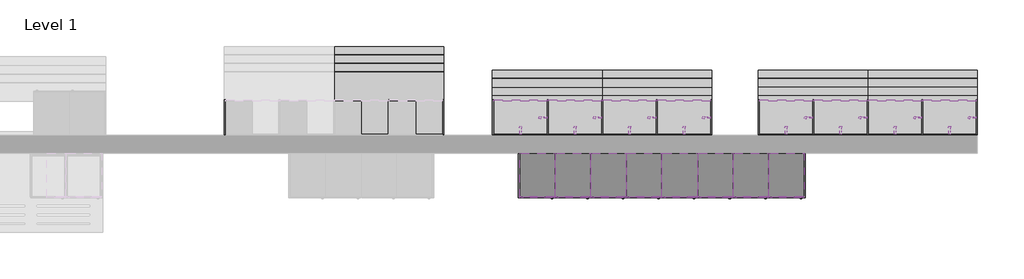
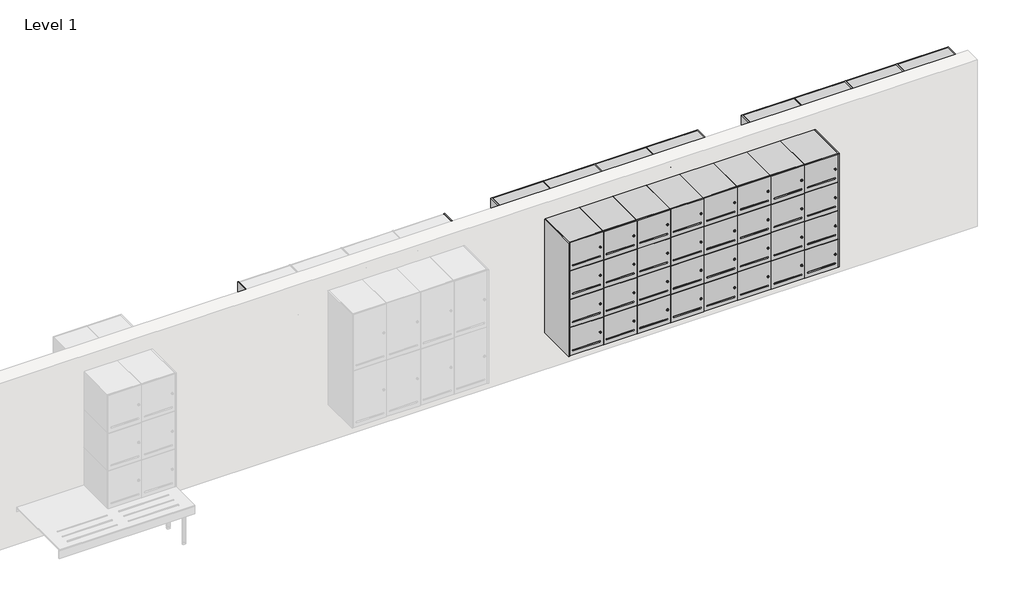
# One storey, part 4 of 4: 121 furniture elements.
"""IFC4 building model written with IfcOpenShell, lengths in millimetres."""

from ifc_helpers import new_model, si_unit, origin, place, context, project, spatial, transform, mapped, element, save
from components import furniture_05545089, furniture_1adf02c7, furniture_41643bc5, standard_40445af7, standard_a614ba5f, standard_31cafe8a, standard_fa82621c, standard_dfdfc683, standard_1d1dc8e2, standard_c1a46ae4, standard_bb7d0adb, standard_4fa27b75, standard_d1edd0f1, standard_5b8814d3, standard_172709b4, standard_1dc56df4, standard_ba7fbf49

model = new_model("IFC4")

# Units and contexts
model_context = context("Model", 3, world=origin())
ifc_project = project(units=[si_unit("LENGTHUNIT", "METRE", prefix="MILLI")], contexts=[model_context])

# Site, building, storey
site = spatial("IfcSite", under=ifc_project)
building = spatial("IfcBuilding", under=site)
storey = spatial("IfcBuildingStorey", under=building, Name="Level 1", Elevation=0.0)

# Furniture
placement = place(None, origin())
furniture_shape = furniture_05545089(model_context)
element("IfcFurniture", 1, ObjectType="Lockers-Bay-Duracube-Duraloc : LWM-1900h x 500d x 400w @ 470h Wall", at=placement, inside=storey, context=model_context, shape_type="MappedRepresentation", body=[
    mapped(furniture_shape, transform((6844.8424585, 2567.7422336, 0.0), x_axis=(1.0, 0.0, 0.0), y_axis=(0.0, 1.0, 0.0), z_axis=(0.0, 0.0, 1.0))),
])
furniture_2_shape = furniture_1adf02c7(model_context)
element("IfcFurniture", 2, ObjectType="Lockers-Bay-Duracube-Player : LSBSM-P-1900h x 400d x 600w with 470h Shoe Box Bench", at=placement, inside=storey, context=model_context, shape_type="MappedRepresentation", body=[
    mapped(furniture_2_shape, transform((12004.8424585, 3217.7422336, 0.0), x_axis=(-1.0, 0.0, 0.0), y_axis=(0.0, -1.0, 0.0), z_axis=(0.0, 0.0, 1.0))),
])
furniture_3_shape = furniture_41643bc5(model_context)
element("IfcFurniture", 3, ObjectType="Lockers-Bay-Duracube-Player : LBSM-P-1900h x 400d x 600w with 470h Bench", at=placement, inside=storey, context=model_context, shape_type="MappedRepresentation", body=[
    mapped(furniture_3_shape, transform((9017.8424585, 3217.7422336, 0.0), x_axis=(-1.0, 0.0, 0.0), y_axis=(0.0, -1.0, 0.0), z_axis=(0.0, 0.0, 1.0))),
])
element("IfcFurniture", 4, ObjectType="Lockers-Bay-Duracube-Player : LBSM-C-1900h x 400d x 600w with 470h Bench", at=placement, inside=storey, context=model_context, shape_type="MappedRepresentation", body=[
    mapped(furniture_3_shape, transform((6004.8424585, 3217.7422336, 0.0), x_axis=(-1.0, 0.0, 0.0), y_axis=(0.0, -1.0, 0.0), z_axis=(0.0, 0.0, 1.0))),
])
standard_shape = standard_40445af7(model_context)
element("IfcFurniture", 5, ObjectType="X_Locker-Duracube-Bay : Standard", at=placement, inside=storey, context=model_context, shape_type="MappedRepresentation", body=[
    mapped(standard_shape, transform((9813.142132, 2817.7422336, 1542.5), x_axis=(1.0, 0.0, 0.0), y_axis=(0.0, 1.0, 0.0), z_axis=(0.0, 0.0, 1.0))),
])
element("IfcFurniture", 6, ObjectType="X_Locker-Duracube-Bay : Standard", at=placement, inside=storey, context=model_context, shape_type="MappedRepresentation", body=[
    mapped(standard_shape, transform((9413.142132, 2817.7422336, 1542.5), x_axis=(1.0, 0.0, 0.0), y_axis=(0.0, 1.0, 0.0), z_axis=(0.0, 0.0, 1.0))),
])
element("IfcFurniture", 7, ObjectType="X_Locker-Duracube-Bay : Standard", at=placement, inside=storey, context=model_context, shape_type="MappedRepresentation", body=[
    mapped(standard_shape, transform((9013.142132, 2817.7422336, 1542.5), x_axis=(1.0, 0.0, 0.0), y_axis=(0.0, 1.0, 0.0), z_axis=(0.0, 0.0, 1.0))),
])
element("IfcFurniture", 8, ObjectType="X_Locker-Duracube-Bay : Standard", at=placement, inside=storey, context=model_context, shape_type="MappedRepresentation", body=[
    mapped(standard_shape, transform((8613.142132, 2817.7422336, 1542.5), x_axis=(1.0, 0.0, 0.0), y_axis=(0.0, 1.0, 0.0), z_axis=(0.0, 0.0, 1.0))),
])
element("IfcFurniture", 9, ObjectType="X_Locker-Duracube-Bay : Standard", at=placement, inside=storey, context=model_context, shape_type="MappedRepresentation", body=[
    mapped(standard_shape, transform((8213.142132, 2817.7422336, 1542.5), x_axis=(1.0, 0.0, 0.0), y_axis=(0.0, 1.0, 0.0), z_axis=(0.0, 0.0, 1.0))),
])
element("IfcFurniture", 10, ObjectType="X_Locker-Duracube-Bay : Standard", at=placement, inside=storey, context=model_context, shape_type="MappedRepresentation", body=[
    mapped(standard_shape, transform((7813.142132, 2817.7422336, 1542.5), x_axis=(1.0, 0.0, 0.0), y_axis=(0.0, 1.0, 0.0), z_axis=(0.0, 0.0, 1.0))),
])
element("IfcFurniture", 11, ObjectType="X_Locker-Duracube-Bay : Standard", at=placement, inside=storey, context=model_context, shape_type="MappedRepresentation", body=[
    mapped(standard_shape, transform((9813.142132, 2817.7422336, 1185.0), x_axis=(1.0, 0.0, 0.0), y_axis=(0.0, 1.0, 0.0), z_axis=(0.0, 0.0, 1.0))),
])
element("IfcFurniture", 12, ObjectType="X_Locker-Duracube-Bay : Standard", at=placement, inside=storey, context=model_context, shape_type="MappedRepresentation", body=[
    mapped(standard_shape, transform((9413.142132, 2817.7422336, 1185.0), x_axis=(1.0, 0.0, 0.0), y_axis=(0.0, 1.0, 0.0), z_axis=(0.0, 0.0, 1.0))),
])
element("IfcFurniture", 13, ObjectType="X_Locker-Duracube-Bay : Standard", at=placement, inside=storey, context=model_context, shape_type="MappedRepresentation", body=[
    mapped(standard_shape, transform((9013.142132, 2817.7422336, 1185.0), x_axis=(1.0, 0.0, 0.0), y_axis=(0.0, 1.0, 0.0), z_axis=(0.0, 0.0, 1.0))),
])
element("IfcFurniture", 14, ObjectType="X_Locker-Duracube-Bay : Standard", at=placement, inside=storey, context=model_context, shape_type="MappedRepresentation", body=[
    mapped(standard_shape, transform((8613.142132, 2817.7422336, 1185.0), x_axis=(1.0, 0.0, 0.0), y_axis=(0.0, 1.0, 0.0), z_axis=(0.0, 0.0, 1.0))),
])
element("IfcFurniture", 15, ObjectType="X_Locker-Duracube-Bay : Standard", at=placement, inside=storey, context=model_context, shape_type="MappedRepresentation", body=[
    mapped(standard_shape, transform((8213.142132, 2817.7422336, 1185.0), x_axis=(1.0, 0.0, 0.0), y_axis=(0.0, 1.0, 0.0), z_axis=(0.0, 0.0, 1.0))),
])
element("IfcFurniture", 16, ObjectType="X_Locker-Duracube-Bay : Standard", at=placement, inside=storey, context=model_context, shape_type="MappedRepresentation", body=[
    mapped(standard_shape, transform((7813.142132, 2817.7422336, 1185.0), x_axis=(1.0, 0.0, 0.0), y_axis=(0.0, 1.0, 0.0), z_axis=(0.0, 0.0, 1.0))),
])
element("IfcFurniture", 17, ObjectType="X_Locker-Duracube-Bay : Standard", at=placement, inside=storey, context=model_context, shape_type="MappedRepresentation", body=[
    mapped(standard_shape, transform((9813.142132, 2817.7422336, 827.5), x_axis=(1.0, 0.0, 0.0), y_axis=(0.0, 1.0, 0.0), z_axis=(0.0, 0.0, 1.0))),
])
element("IfcFurniture", 18, ObjectType="X_Locker-Duracube-Bay : Standard", at=placement, inside=storey, context=model_context, shape_type="MappedRepresentation", body=[
    mapped(standard_shape, transform((9413.142132, 2817.7422336, 827.5), x_axis=(1.0, 0.0, 0.0), y_axis=(0.0, 1.0, 0.0), z_axis=(0.0, 0.0, 1.0))),
])
element("IfcFurniture", 19, ObjectType="X_Locker-Duracube-Bay : Standard", at=placement, inside=storey, context=model_context, shape_type="MappedRepresentation", body=[
    mapped(standard_shape, transform((9013.142132, 2817.7422336, 827.5), x_axis=(1.0, 0.0, 0.0), y_axis=(0.0, 1.0, 0.0), z_axis=(0.0, 0.0, 1.0))),
])
element("IfcFurniture", 20, ObjectType="X_Locker-Duracube-Bay : Standard", at=placement, inside=storey, context=model_context, shape_type="MappedRepresentation", body=[
    mapped(standard_shape, transform((8613.142132, 2817.7422336, 827.5), x_axis=(1.0, 0.0, 0.0), y_axis=(0.0, 1.0, 0.0), z_axis=(0.0, 0.0, 1.0))),
])
element("IfcFurniture", 21, ObjectType="X_Locker-Duracube-Bay : Standard", at=placement, inside=storey, context=model_context, shape_type="MappedRepresentation", body=[
    mapped(standard_shape, transform((8213.142132, 2817.7422336, 827.5), x_axis=(1.0, 0.0, 0.0), y_axis=(0.0, 1.0, 0.0), z_axis=(0.0, 0.0, 1.0))),
])
element("IfcFurniture", 22, ObjectType="X_Locker-Duracube-Bay : Standard", at=placement, inside=storey, context=model_context, shape_type="MappedRepresentation", body=[
    mapped(standard_shape, transform((7813.142132, 2817.7422336, 827.5), x_axis=(1.0, 0.0, 0.0), y_axis=(0.0, 1.0, 0.0), z_axis=(0.0, 0.0, 1.0))),
])
element("IfcFurniture", 23, ObjectType="X_Locker-Duracube-Bay : Standard", at=placement, inside=storey, context=model_context, shape_type="MappedRepresentation", body=[
    mapped(standard_shape, transform((9813.142132, 2817.7422336, 470.0), x_axis=(1.0, 0.0, 0.0), y_axis=(0.0, 1.0, 0.0), z_axis=(0.0, 0.0, 1.0))),
])
element("IfcFurniture", 24, ObjectType="X_Locker-Duracube-Bay : Standard", at=placement, inside=storey, context=model_context, shape_type="MappedRepresentation", body=[
    mapped(standard_shape, transform((9413.142132, 2817.7422336, 470.0), x_axis=(1.0, 0.0, 0.0), y_axis=(0.0, 1.0, 0.0), z_axis=(0.0, 0.0, 1.0))),
])
element("IfcFurniture", 25, ObjectType="X_Locker-Duracube-Bay : Standard", at=placement, inside=storey, context=model_context, shape_type="MappedRepresentation", body=[
    mapped(standard_shape, transform((9013.142132, 2817.7422336, 470.0), x_axis=(1.0, 0.0, 0.0), y_axis=(0.0, 1.0, 0.0), z_axis=(0.0, 0.0, 1.0))),
])
element("IfcFurniture", 26, ObjectType="X_Locker-Duracube-Bay : Standard", at=placement, inside=storey, context=model_context, shape_type="MappedRepresentation", body=[
    mapped(standard_shape, transform((8613.142132, 2817.7422336, 470.0), x_axis=(1.0, 0.0, 0.0), y_axis=(0.0, 1.0, 0.0), z_axis=(0.0, 0.0, 1.0))),
])
element("IfcFurniture", 27, ObjectType="X_Locker-Duracube-Bay : Standard", at=placement, inside=storey, context=model_context, shape_type="MappedRepresentation", body=[
    mapped(standard_shape, transform((8213.142132, 2817.7422336, 470.0), x_axis=(1.0, 0.0, 0.0), y_axis=(0.0, 1.0, 0.0), z_axis=(0.0, 0.0, 1.0))),
])
element("IfcFurniture", 28, ObjectType="X_Locker-Duracube-Bay : Standard", at=placement, inside=storey, context=model_context, shape_type="MappedRepresentation", body=[
    mapped(standard_shape, transform((7813.142132, 2817.7422336, 470.0), x_axis=(1.0, 0.0, 0.0), y_axis=(0.0, 1.0, 0.0), z_axis=(0.0, 0.0, 1.0))),
])
element("IfcFurniture", 29, ObjectType="X_Locker-Duracube-Bay : Standard", at=placement, inside=storey, context=model_context, shape_type="MappedRepresentation", body=[
    mapped(standard_shape, transform((7413.142132, 2817.7422336, 1542.5), x_axis=(1.0, 0.0, 0.0), y_axis=(0.0, 1.0, 0.0), z_axis=(0.0, 0.0, 1.0))),
])
element("IfcFurniture", 30, ObjectType="X_Locker-Duracube-Bay : Standard", at=placement, inside=storey, context=model_context, shape_type="MappedRepresentation", body=[
    mapped(standard_shape, transform((7413.142132, 2817.7422336, 1185.0), x_axis=(1.0, 0.0, 0.0), y_axis=(0.0, 1.0, 0.0), z_axis=(0.0, 0.0, 1.0))),
])
element("IfcFurniture", 31, ObjectType="X_Locker-Duracube-Bay : Standard", at=placement, inside=storey, context=model_context, shape_type="MappedRepresentation", body=[
    mapped(standard_shape, transform((7413.142132, 2817.7422336, 827.5), x_axis=(1.0, 0.0, 0.0), y_axis=(0.0, 1.0, 0.0), z_axis=(0.0, 0.0, 1.0))),
])
element("IfcFurniture", 32, ObjectType="X_Locker-Duracube-Bay : Standard", at=placement, inside=storey, context=model_context, shape_type="MappedRepresentation", body=[
    mapped(standard_shape, transform((7413.142132, 2817.7422336, 470.0), x_axis=(1.0, 0.0, 0.0), y_axis=(0.0, 1.0, 0.0), z_axis=(0.0, 0.0, 1.0))),
])
element("IfcFurniture", 33, ObjectType="X_Locker-Duracube-Bay : Standard", at=placement, inside=storey, context=model_context, shape_type="MappedRepresentation", body=[
    mapped(standard_shape, transform((7013.142132, 2817.7422336, 1542.5), x_axis=(1.0, 0.0, 0.0), y_axis=(0.0, 1.0, 0.0), z_axis=(0.0, 0.0, 1.0))),
])
element("IfcFurniture", 34, ObjectType="X_Locker-Duracube-Bay : Standard", at=placement, inside=storey, context=model_context, shape_type="MappedRepresentation", body=[
    mapped(standard_shape, transform((7013.142132, 2817.7422336, 1185.0), x_axis=(1.0, 0.0, 0.0), y_axis=(0.0, 1.0, 0.0), z_axis=(0.0, 0.0, 1.0))),
])
element("IfcFurniture", 35, ObjectType="X_Locker-Duracube-Bay : Standard", at=placement, inside=storey, context=model_context, shape_type="MappedRepresentation", body=[
    mapped(standard_shape, transform((7013.142132, 2817.7422336, 827.5), x_axis=(1.0, 0.0, 0.0), y_axis=(0.0, 1.0, 0.0), z_axis=(0.0, 0.0, 1.0))),
])
element("IfcFurniture", 36, ObjectType="X_Locker-Duracube-Bay : Standard", at=placement, inside=storey, context=model_context, shape_type="MappedRepresentation", body=[
    mapped(standard_shape, transform((7013.142132, 2817.7422336, 470.0), x_axis=(1.0, 0.0, 0.0), y_axis=(0.0, 1.0, 0.0), z_axis=(0.0, 0.0, 1.0))),
])
standard_2_shape = standard_a614ba5f(model_context)
element("IfcFurniture", 37, ObjectType="X_Locker-Duracube-Door : Standard", at=placement, inside=storey, context=model_context, shape_type="MappedRepresentation", body=[
    mapped(standard_2_shape, transform((9813.142132, 2330.7422336, 1542.5), x_axis=(1.0, 0.0, 0.0), y_axis=(0.0, 1.0, 0.0), z_axis=(0.0, 0.0, 1.0))),
])
element("IfcFurniture", 38, ObjectType="X_Locker-Duracube-Door : Standard", at=placement, inside=storey, context=model_context, shape_type="MappedRepresentation", body=[
    mapped(standard_2_shape, transform((9413.142132, 2330.7422336, 1542.5), x_axis=(1.0, 0.0, 0.0), y_axis=(0.0, 1.0, 0.0), z_axis=(0.0, 0.0, 1.0))),
])
element("IfcFurniture", 39, ObjectType="X_Locker-Duracube-Door : Standard", at=placement, inside=storey, context=model_context, shape_type="MappedRepresentation", body=[
    mapped(standard_2_shape, transform((9013.142132, 2330.7422336, 1542.5), x_axis=(1.0, 0.0, 0.0), y_axis=(0.0, 1.0, 0.0), z_axis=(0.0, 0.0, 1.0))),
])
element("IfcFurniture", 40, ObjectType="X_Locker-Duracube-Door : Standard", at=placement, inside=storey, context=model_context, shape_type="MappedRepresentation", body=[
    mapped(standard_2_shape, transform((8613.142132, 2330.7422336, 1542.5), x_axis=(1.0, 0.0, 0.0), y_axis=(0.0, 1.0, 0.0), z_axis=(0.0, 0.0, 1.0))),
])
element("IfcFurniture", 41, ObjectType="X_Locker-Duracube-Door : Standard", at=placement, inside=storey, context=model_context, shape_type="MappedRepresentation", body=[
    mapped(standard_2_shape, transform((8213.142132, 2330.7422336, 1542.5), x_axis=(1.0, 0.0, 0.0), y_axis=(0.0, 1.0, 0.0), z_axis=(0.0, 0.0, 1.0))),
])
element("IfcFurniture", 42, ObjectType="X_Locker-Duracube-Door : Standard", at=placement, inside=storey, context=model_context, shape_type="MappedRepresentation", body=[
    mapped(standard_2_shape, transform((7813.142132, 2330.7422336, 1542.5), x_axis=(1.0, 0.0, 0.0), y_axis=(0.0, 1.0, 0.0), z_axis=(0.0, 0.0, 1.0))),
])
element("IfcFurniture", 43, ObjectType="X_Locker-Duracube-Door : Standard", at=placement, inside=storey, context=model_context, shape_type="MappedRepresentation", body=[
    mapped(standard_2_shape, transform((9813.142132, 2330.7422336, 1185.0), x_axis=(1.0, 0.0, 0.0), y_axis=(0.0, 1.0, 0.0), z_axis=(0.0, 0.0, 1.0))),
])
element("IfcFurniture", 44, ObjectType="X_Locker-Duracube-Door : Standard", at=placement, inside=storey, context=model_context, shape_type="MappedRepresentation", body=[
    mapped(standard_2_shape, transform((9413.142132, 2330.7422336, 1185.0), x_axis=(1.0, 0.0, 0.0), y_axis=(0.0, 1.0, 0.0), z_axis=(0.0, 0.0, 1.0))),
])
element("IfcFurniture", 45, ObjectType="X_Locker-Duracube-Door : Standard", at=placement, inside=storey, context=model_context, shape_type="MappedRepresentation", body=[
    mapped(standard_2_shape, transform((9013.142132, 2330.7422336, 1185.0), x_axis=(1.0, 0.0, 0.0), y_axis=(0.0, 1.0, 0.0), z_axis=(0.0, 0.0, 1.0))),
])
element("IfcFurniture", 46, ObjectType="X_Locker-Duracube-Door : Standard", at=placement, inside=storey, context=model_context, shape_type="MappedRepresentation", body=[
    mapped(standard_2_shape, transform((8613.142132, 2330.7422336, 1185.0), x_axis=(1.0, 0.0, 0.0), y_axis=(0.0, 1.0, 0.0), z_axis=(0.0, 0.0, 1.0))),
])
element("IfcFurniture", 47, ObjectType="X_Locker-Duracube-Door : Standard", at=placement, inside=storey, context=model_context, shape_type="MappedRepresentation", body=[
    mapped(standard_2_shape, transform((8213.142132, 2330.7422336, 1185.0), x_axis=(1.0, 0.0, 0.0), y_axis=(0.0, 1.0, 0.0), z_axis=(0.0, 0.0, 1.0))),
])
element("IfcFurniture", 48, ObjectType="X_Locker-Duracube-Door : Standard", at=placement, inside=storey, context=model_context, shape_type="MappedRepresentation", body=[
    mapped(standard_2_shape, transform((7813.142132, 2330.7422336, 1185.0), x_axis=(1.0, 0.0, 0.0), y_axis=(0.0, 1.0, 0.0), z_axis=(0.0, 0.0, 1.0))),
])
element("IfcFurniture", 49, ObjectType="X_Locker-Duracube-Door : Standard", at=placement, inside=storey, context=model_context, shape_type="MappedRepresentation", body=[
    mapped(standard_2_shape, transform((9813.142132, 2330.7422336, 827.5), x_axis=(1.0, 0.0, 0.0), y_axis=(0.0, 1.0, 0.0), z_axis=(0.0, 0.0, 1.0))),
])
element("IfcFurniture", 50, ObjectType="X_Locker-Duracube-Door : Standard", at=placement, inside=storey, context=model_context, shape_type="MappedRepresentation", body=[
    mapped(standard_2_shape, transform((9413.142132, 2330.7422336, 827.5), x_axis=(1.0, 0.0, 0.0), y_axis=(0.0, 1.0, 0.0), z_axis=(0.0, 0.0, 1.0))),
])
element("IfcFurniture", 51, ObjectType="X_Locker-Duracube-Door : Standard", at=placement, inside=storey, context=model_context, shape_type="MappedRepresentation", body=[
    mapped(standard_2_shape, transform((9013.142132, 2330.7422336, 827.5), x_axis=(1.0, 0.0, 0.0), y_axis=(0.0, 1.0, 0.0), z_axis=(0.0, 0.0, 1.0))),
])
element("IfcFurniture", 52, ObjectType="X_Locker-Duracube-Door : Standard", at=placement, inside=storey, context=model_context, shape_type="MappedRepresentation", body=[
    mapped(standard_2_shape, transform((8613.142132, 2330.7422336, 827.5), x_axis=(1.0, 0.0, 0.0), y_axis=(0.0, 1.0, 0.0), z_axis=(0.0, 0.0, 1.0))),
])
element("IfcFurniture", 53, ObjectType="X_Locker-Duracube-Door : Standard", at=placement, inside=storey, context=model_context, shape_type="MappedRepresentation", body=[
    mapped(standard_2_shape, transform((8213.142132, 2330.7422336, 827.5), x_axis=(1.0, 0.0, 0.0), y_axis=(0.0, 1.0, 0.0), z_axis=(0.0, 0.0, 1.0))),
])
element("IfcFurniture", 54, ObjectType="X_Locker-Duracube-Door : Standard", at=placement, inside=storey, context=model_context, shape_type="MappedRepresentation", body=[
    mapped(standard_2_shape, transform((7813.142132, 2330.7422336, 827.5), x_axis=(1.0, 0.0, 0.0), y_axis=(0.0, 1.0, 0.0), z_axis=(0.0, 0.0, 1.0))),
])
element("IfcFurniture", 55, ObjectType="X_Locker-Duracube-Door : Standard", at=placement, inside=storey, context=model_context, shape_type="MappedRepresentation", body=[
    mapped(standard_2_shape, transform((9813.142132, 2330.7422336, 470.0), x_axis=(1.0, 0.0, 0.0), y_axis=(0.0, 1.0, 0.0), z_axis=(0.0, 0.0, 1.0))),
])
element("IfcFurniture", 56, ObjectType="X_Locker-Duracube-Door : Standard", at=placement, inside=storey, context=model_context, shape_type="MappedRepresentation", body=[
    mapped(standard_2_shape, transform((9413.142132, 2330.7422336, 470.0), x_axis=(1.0, 0.0, 0.0), y_axis=(0.0, 1.0, 0.0), z_axis=(0.0, 0.0, 1.0))),
])
element("IfcFurniture", 57, ObjectType="X_Locker-Duracube-Door : Standard", at=placement, inside=storey, context=model_context, shape_type="MappedRepresentation", body=[
    mapped(standard_2_shape, transform((9013.142132, 2330.7422336, 470.0), x_axis=(1.0, 0.0, 0.0), y_axis=(0.0, 1.0, 0.0), z_axis=(0.0, 0.0, 1.0))),
])
element("IfcFurniture", 58, ObjectType="X_Locker-Duracube-Door : Standard", at=placement, inside=storey, context=model_context, shape_type="MappedRepresentation", body=[
    mapped(standard_2_shape, transform((8613.142132, 2330.7422336, 470.0), x_axis=(1.0, 0.0, 0.0), y_axis=(0.0, 1.0, 0.0), z_axis=(0.0, 0.0, 1.0))),
])
element("IfcFurniture", 59, ObjectType="X_Locker-Duracube-Door : Standard", at=placement, inside=storey, context=model_context, shape_type="MappedRepresentation", body=[
    mapped(standard_2_shape, transform((8213.142132, 2330.7422336, 470.0), x_axis=(1.0, 0.0, 0.0), y_axis=(0.0, 1.0, 0.0), z_axis=(0.0, 0.0, 1.0))),
])
element("IfcFurniture", 60, ObjectType="X_Locker-Duracube-Door : Standard", at=placement, inside=storey, context=model_context, shape_type="MappedRepresentation", body=[
    mapped(standard_2_shape, transform((7813.142132, 2330.7422336, 470.0), x_axis=(1.0, 0.0, 0.0), y_axis=(0.0, 1.0, 0.0), z_axis=(0.0, 0.0, 1.0))),
])
element("IfcFurniture", 61, ObjectType="X_Locker-Duracube-Door : Standard", at=placement, inside=storey, context=model_context, shape_type="MappedRepresentation", body=[
    mapped(standard_2_shape, transform((7413.142132, 2330.7422336, 1542.5), x_axis=(1.0, 0.0, 0.0), y_axis=(0.0, 1.0, 0.0), z_axis=(0.0, 0.0, 1.0))),
])
element("IfcFurniture", 62, ObjectType="X_Locker-Duracube-Door : Standard", at=placement, inside=storey, context=model_context, shape_type="MappedRepresentation", body=[
    mapped(standard_2_shape, transform((7413.142132, 2330.7422336, 1185.0), x_axis=(1.0, 0.0, 0.0), y_axis=(0.0, 1.0, 0.0), z_axis=(0.0, 0.0, 1.0))),
])
element("IfcFurniture", 63, ObjectType="X_Locker-Duracube-Door : Standard", at=placement, inside=storey, context=model_context, shape_type="MappedRepresentation", body=[
    mapped(standard_2_shape, transform((7413.142132, 2330.7422336, 827.5), x_axis=(1.0, 0.0, 0.0), y_axis=(0.0, 1.0, 0.0), z_axis=(0.0, 0.0, 1.0))),
])
element("IfcFurniture", 64, ObjectType="X_Locker-Duracube-Door : Standard", at=placement, inside=storey, context=model_context, shape_type="MappedRepresentation", body=[
    mapped(standard_2_shape, transform((7413.142132, 2330.7422336, 470.0), x_axis=(1.0, 0.0, 0.0), y_axis=(0.0, 1.0, 0.0), z_axis=(0.0, 0.0, 1.0))),
])
element("IfcFurniture", 65, ObjectType="X_Locker-Duracube-Door : Standard", at=placement, inside=storey, context=model_context, shape_type="MappedRepresentation", body=[
    mapped(standard_2_shape, transform((7013.142132, 2330.7422336, 1542.5), x_axis=(1.0, 0.0, 0.0), y_axis=(0.0, 1.0, 0.0), z_axis=(0.0, 0.0, 1.0))),
])
element("IfcFurniture", 66, ObjectType="X_Locker-Duracube-Door : Standard", at=placement, inside=storey, context=model_context, shape_type="MappedRepresentation", body=[
    mapped(standard_2_shape, transform((7013.142132, 2330.7422336, 1185.0), x_axis=(1.0, 0.0, 0.0), y_axis=(0.0, 1.0, 0.0), z_axis=(0.0, 0.0, 1.0))),
])
element("IfcFurniture", 67, ObjectType="X_Locker-Duracube-Door : Standard", at=placement, inside=storey, context=model_context, shape_type="MappedRepresentation", body=[
    mapped(standard_2_shape, transform((7013.142132, 2330.7422336, 827.5), x_axis=(1.0, 0.0, 0.0), y_axis=(0.0, 1.0, 0.0), z_axis=(0.0, 0.0, 1.0))),
])
element("IfcFurniture", 68, ObjectType="X_Locker-Duracube-Door : Standard", at=placement, inside=storey, context=model_context, shape_type="MappedRepresentation", body=[
    mapped(standard_2_shape, transform((7013.142132, 2330.7422336, 470.0), x_axis=(1.0, 0.0, 0.0), y_axis=(0.0, 1.0, 0.0), z_axis=(0.0, 0.0, 1.0))),
])
standard_3_shape = standard_31cafe8a(model_context)
element("IfcFurniture", 69, ObjectType="X_Partition-Robe Hook-Duracube-Door Stop : Standard", at=placement, inside=storey, context=model_context, shape_type="MappedRepresentation", body=[
    mapped(standard_3_shape, transform((9852.8424585, 3030.7422336, 1388.5), x_axis=(-1.0, 0.0, 0.0), y_axis=(0.0, 0.0, 1.0), z_axis=(0.0, 1.0, 0.0))),
])
element("IfcFurniture", 70, ObjectType="X_Partition-Robe Hook-Duracube-Door Stop : Standard", at=placement, inside=storey, context=model_context, shape_type="MappedRepresentation", body=[
    mapped(standard_3_shape, transform((10152.8424585, 3217.7422336, 1388.5), x_axis=(0.0, -1.0, 0.0), y_axis=(0.0, 0.0, 1.0), z_axis=(-1.0, 0.0, 0.0))),
])
element("IfcFurniture", 71, ObjectType="X_Partition-Robe Hook-Duracube-Door Stop : Standard", at=placement, inside=storey, context=model_context, shape_type="MappedRepresentation", body=[
    mapped(standard_3_shape, transform((10465.8424585, 3030.7422336, 1388.5), x_axis=(-1.0, 0.0, 0.0), y_axis=(0.0, 0.0, 1.0), z_axis=(0.0, 1.0, 0.0))),
])
element("IfcFurniture", 72, ObjectType="X_Partition-Robe Hook-Duracube-Door Stop : Standard", at=placement, inside=storey, context=model_context, shape_type="MappedRepresentation", body=[
    mapped(standard_3_shape, transform((10765.8424585, 3217.7422336, 1388.5), x_axis=(0.0, -1.0, 0.0), y_axis=(0.0, 0.0, 1.0), z_axis=(-1.0, 0.0, 0.0))),
])
element("IfcFurniture", 73, ObjectType="X_Partition-Robe Hook-Duracube-Door Stop : Standard", at=placement, inside=storey, context=model_context, shape_type="MappedRepresentation", body=[
    mapped(standard_3_shape, transform((11078.8424585, 3030.7422336, 1388.5), x_axis=(-1.0, 0.0, 0.0), y_axis=(0.0, 0.0, 1.0), z_axis=(0.0, 1.0, 0.0))),
])
element("IfcFurniture", 74, ObjectType="X_Partition-Robe Hook-Duracube-Door Stop : Standard", at=placement, inside=storey, context=model_context, shape_type="MappedRepresentation", body=[
    mapped(standard_3_shape, transform((11378.8424585, 3217.7422336, 1388.5), x_axis=(0.0, -1.0, 0.0), y_axis=(0.0, 0.0, 1.0), z_axis=(-1.0, 0.0, 0.0))),
])
element("IfcFurniture", 75, ObjectType="X_Partition-Robe Hook-Duracube-Door Stop : Standard", at=placement, inside=storey, context=model_context, shape_type="MappedRepresentation", body=[
    mapped(standard_3_shape, transform((11691.8424585, 3030.7422336, 1388.5), x_axis=(-1.0, 0.0, 0.0), y_axis=(0.0, 0.0, 1.0), z_axis=(0.0, 1.0, 0.0))),
])
element("IfcFurniture", 76, ObjectType="X_Partition-Robe Hook-Duracube-Door Stop : Standard", at=placement, inside=storey, context=model_context, shape_type="MappedRepresentation", body=[
    mapped(standard_3_shape, transform((11991.8424585, 3217.7422336, 1388.5), x_axis=(0.0, -1.0, 0.0), y_axis=(0.0, 0.0, 1.0), z_axis=(-1.0, 0.0, 0.0))),
])
element("IfcFurniture", 77, ObjectType="X_Partition-Robe Hook-Duracube-Door Stop : Standard", at=placement, inside=storey, context=model_context, shape_type="MappedRepresentation", body=[
    mapped(standard_3_shape, transform((7478.8424585, 3030.7422336, 1388.5), x_axis=(-1.0, 0.0, 0.0), y_axis=(0.0, 0.0, 1.0), z_axis=(0.0, 1.0, 0.0))),
])
element("IfcFurniture", 78, ObjectType="X_Partition-Robe Hook-Duracube-Door Stop : Standard", at=placement, inside=storey, context=model_context, shape_type="MappedRepresentation", body=[
    mapped(standard_3_shape, transform((7778.8424585, 3217.7422336, 1388.5), x_axis=(0.0, -1.0, 0.0), y_axis=(0.0, 0.0, 1.0), z_axis=(-1.0, 0.0, 0.0))),
])
element("IfcFurniture", 79, ObjectType="X_Partition-Robe Hook-Duracube-Door Stop : Standard", at=placement, inside=storey, context=model_context, shape_type="MappedRepresentation", body=[
    mapped(standard_3_shape, transform((8091.8424585, 3030.7422336, 1388.5), x_axis=(-1.0, 0.0, 0.0), y_axis=(0.0, 0.0, 1.0), z_axis=(0.0, 1.0, 0.0))),
])
element("IfcFurniture", 80, ObjectType="X_Partition-Robe Hook-Duracube-Door Stop : Standard", at=placement, inside=storey, context=model_context, shape_type="MappedRepresentation", body=[
    mapped(standard_3_shape, transform((8391.8424585, 3217.7422336, 1388.5), x_axis=(0.0, -1.0, 0.0), y_axis=(0.0, 0.0, 1.0), z_axis=(-1.0, 0.0, 0.0))),
])
element("IfcFurniture", 81, ObjectType="X_Partition-Robe Hook-Duracube-Door Stop : Standard", at=placement, inside=storey, context=model_context, shape_type="MappedRepresentation", body=[
    mapped(standard_3_shape, transform((8704.8424585, 3030.7422336, 1388.5), x_axis=(-1.0, 0.0, 0.0), y_axis=(0.0, 0.0, 1.0), z_axis=(0.0, 1.0, 0.0))),
])
element("IfcFurniture", 82, ObjectType="X_Partition-Robe Hook-Duracube-Door Stop : Standard", at=placement, inside=storey, context=model_context, shape_type="MappedRepresentation", body=[
    mapped(standard_3_shape, transform((9004.8424585, 3217.7422336, 1388.5), x_axis=(0.0, -1.0, 0.0), y_axis=(0.0, 0.0, 1.0), z_axis=(-1.0, 0.0, 0.0))),
])
element("IfcFurniture", 83, ObjectType="X_Partition-Robe Hook-Duracube-Door Stop : Standard", at=placement, inside=storey, context=model_context, shape_type="MappedRepresentation", body=[
    mapped(standard_3_shape, transform((6865.8424585, 3030.7422336, 1388.5), x_axis=(-1.0, 0.0, 0.0), y_axis=(0.0, 0.0, 1.0), z_axis=(0.0, 1.0, 0.0))),
])
element("IfcFurniture", 84, ObjectType="X_Partition-Robe Hook-Duracube-Door Stop : Standard", at=placement, inside=storey, context=model_context, shape_type="MappedRepresentation", body=[
    mapped(standard_3_shape, transform((7165.8424585, 3217.7422336, 1388.5), x_axis=(0.0, -1.0, 0.0), y_axis=(0.0, 0.0, 1.0), z_axis=(-1.0, 0.0, 0.0))),
])
standard_4_shape = standard_fa82621c(model_context)
element("IfcFurniture", 85, ObjectType="X_Locker-Duracube-Panel : Standard", at=placement, inside=storey, context=model_context, shape_type="MappedRepresentation", body=[
    mapped(standard_4_shape, transform((10165.8424585, 3262.44256, 470.0), x_axis=(0.0, -1.0, 0.0), y_axis=(1.0, 0.0, 0.0), z_axis=(0.0, 0.0, 1.0))),
])
element("IfcFurniture", 86, ObjectType="X_Locker-Duracube-Panel : Standard", at=placement, inside=storey, context=model_context, shape_type="MappedRepresentation", body=[
    mapped(standard_4_shape, transform((10778.8424585, 3262.44256, 470.0), x_axis=(0.0, -1.0, 0.0), y_axis=(1.0, 0.0, 0.0), z_axis=(0.0, 0.0, 1.0))),
])
element("IfcFurniture", 87, ObjectType="X_Locker-Duracube-Panel : Standard", at=placement, inside=storey, context=model_context, shape_type="MappedRepresentation", body=[
    mapped(standard_4_shape, transform((11391.8424585, 3262.44256, 470.0), x_axis=(0.0, -1.0, 0.0), y_axis=(1.0, 0.0, 0.0), z_axis=(0.0, 0.0, 1.0))),
])
element("IfcFurniture", 88, ObjectType="X_Locker-Duracube-Panel : Standard", at=placement, inside=storey, context=model_context, shape_type="MappedRepresentation", body=[
    mapped(standard_4_shape, transform((7178.8424585, 3262.44256, 470.0), x_axis=(0.0, -1.0, 0.0), y_axis=(1.0, 0.0, 0.0), z_axis=(0.0, 0.0, 1.0))),
])
element("IfcFurniture", 89, ObjectType="X_Locker-Duracube-Panel : Standard", at=placement, inside=storey, context=model_context, shape_type="MappedRepresentation", body=[
    mapped(standard_4_shape, transform((7791.8424585, 3262.44256, 470.0), x_axis=(0.0, -1.0, 0.0), y_axis=(1.0, 0.0, 0.0), z_axis=(0.0, 0.0, 1.0))),
])
element("IfcFurniture", 90, ObjectType="X_Locker-Duracube-Panel : Standard", at=placement, inside=storey, context=model_context, shape_type="MappedRepresentation", body=[
    mapped(standard_4_shape, transform((8404.8424585, 3262.44256, 470.0), x_axis=(0.0, -1.0, 0.0), y_axis=(1.0, 0.0, 0.0), z_axis=(0.0, 0.0, 1.0))),
])
standard_5_shape = standard_dfdfc683(model_context)
element("IfcFurniture", 91, ObjectType="X_Bench-Foot-Duracube-Player Wall Assembly : Standard", at=placement, inside=storey, context=model_context, shape_type="MappedRepresentation", body=[
    mapped(standard_5_shape, transform((8949.0427849, 3377.7422336, 0.0), x_axis=(-1.0, 0.0, 0.0), y_axis=(0.0, -1.0, 0.0), z_axis=(0.0, 0.0, 1.0))),
])
element("IfcFurniture", 92, ObjectType="X_Bench-Foot-Duracube-Player Wall Assembly : Standard", at=placement, inside=storey, context=model_context, shape_type="MappedRepresentation", body=[
    mapped(standard_5_shape, transform((7716.5427849, 3377.7422336, 0.0), x_axis=(-1.0, 0.0, 0.0), y_axis=(0.0, -1.0, 0.0), z_axis=(0.0, 0.0, 1.0))),
])
standard_6_shape = standard_1d1dc8e2(model_context)
element("IfcFurniture", 93, ObjectType="X_Bench-Foot-Duracube-Player Wall Assembly : Standard", at=placement, inside=storey, context=model_context, shape_type="MappedRepresentation", body=[
    mapped(standard_6_shape, transform((7854.142132, 3377.7422336, 0.0), x_axis=(1.0, 0.0, 0.0), y_axis=(0.0, 1.0, 0.0), z_axis=(0.0, 0.0, 1.0))),
])
element("IfcFurniture", 94, ObjectType="X_Bench-Foot-Duracube-Player Wall Assembly : Standard", at=placement, inside=storey, context=model_context, shape_type="MappedRepresentation", body=[
    mapped(standard_6_shape, transform((6621.642132, 3377.7422336, 0.0), x_axis=(1.0, 0.0, 0.0), y_axis=(0.0, 1.0, 0.0), z_axis=(0.0, 0.0, 1.0))),
])
standard_7_shape = standard_c1a46ae4(model_context)
element("IfcFurniture", 95, ObjectType="X_Bench-Foot-Duracube-Player Wall Assembly : Standard", at=placement, inside=storey, context=model_context, shape_type="MappedRepresentation", body=[
    mapped(standard_7_shape, transform((5936.0427849, 3232.7422336, 0.0), x_axis=(-1.0, 0.0, 0.0), y_axis=(0.0, -1.0, 0.0), z_axis=(0.0, 0.0, 1.0))),
])
standard_8_shape = standard_bb7d0adb(model_context)
element("IfcFurniture", 96, ObjectType="X_Vanity-Angle-Duracube-Bench Support : Standard", at=placement, inside=storey, context=model_context, shape_type="MappedRepresentation", body=[
    mapped(standard_8_shape, transform((11433.2927849, 3017.7422336, 417.0), x_axis=(-1.0, 0.0, 0.0), y_axis=(0.0, -1.0, 0.0), z_axis=(0.0, 0.0, 1.0))),
])
element("IfcFurniture", 97, ObjectType="X_Vanity-Angle-Duracube-Bench Support : Standard", at=placement, inside=storey, context=model_context, shape_type="MappedRepresentation", body=[
    mapped(standard_8_shape, transform((10200.7927849, 3017.7422336, 417.0), x_axis=(-1.0, 0.0, 0.0), y_axis=(0.0, -1.0, 0.0), z_axis=(0.0, 0.0, 1.0))),
])
element("IfcFurniture", 98, ObjectType="X_Vanity-Angle-Duracube-Bench Support : Standard", at=placement, inside=storey, context=model_context, shape_type="MappedRepresentation", body=[
    mapped(standard_8_shape, transform((8446.2927849, 3017.7422336, 417.0), x_axis=(-1.0, 0.0, 0.0), y_axis=(0.0, -1.0, 0.0), z_axis=(0.0, 0.0, 1.0))),
])
element("IfcFurniture", 99, ObjectType="X_Vanity-Angle-Duracube-Bench Support : Standard", at=placement, inside=storey, context=model_context, shape_type="MappedRepresentation", body=[
    mapped(standard_8_shape, transform((7213.7927849, 3017.7422336, 417.0), x_axis=(-1.0, 0.0, 0.0), y_axis=(0.0, -1.0, 0.0), z_axis=(0.0, 0.0, 1.0))),
])
element("IfcFurniture", 100, ObjectType="X_Vanity-Angle-Duracube-Bench Support : Standard", at=placement, inside=storey, context=model_context, shape_type="MappedRepresentation", body=[
    mapped(standard_8_shape, transform((5433.2927849, 3017.7422336, 417.0), x_axis=(-1.0, 0.0, 0.0), y_axis=(0.0, -1.0, 0.0), z_axis=(0.0, 0.0, 1.0))),
])
standard_9_shape = standard_4fa27b75(model_context)
element("IfcFurniture", 101, ObjectType="X_Locker-Duracube-Player Bay : Standard", at=placement, inside=storey, context=model_context, shape_type="MappedRepresentation", body=[
    mapped(standard_9_shape, transform((9897.5427849, 3017.7422336, 470.0), x_axis=(-1.0, 0.0, 0.0), y_axis=(0.0, -1.0, 0.0), z_axis=(0.0, 0.0, 1.0))),
])
element("IfcFurniture", 102, ObjectType="X_Locker-Duracube-Player Bay : Standard", at=placement, inside=storey, context=model_context, shape_type="MappedRepresentation", body=[
    mapped(standard_9_shape, transform((10510.5427849, 3017.7422336, 470.0), x_axis=(-1.0, 0.0, 0.0), y_axis=(0.0, -1.0, 0.0), z_axis=(0.0, 0.0, 1.0))),
])
element("IfcFurniture", 103, ObjectType="X_Locker-Duracube-Player Bay : Standard", at=placement, inside=storey, context=model_context, shape_type="MappedRepresentation", body=[
    mapped(standard_9_shape, transform((11123.5427849, 3017.7422336, 470.0), x_axis=(-1.0, 0.0, 0.0), y_axis=(0.0, -1.0, 0.0), z_axis=(0.0, 0.0, 1.0))),
])
element("IfcFurniture", 104, ObjectType="X_Locker-Duracube-Player Bay : Standard", at=placement, inside=storey, context=model_context, shape_type="MappedRepresentation", body=[
    mapped(standard_9_shape, transform((11736.5427849, 3017.7422336, 470.0), x_axis=(-1.0, 0.0, 0.0), y_axis=(0.0, -1.0, 0.0), z_axis=(0.0, 0.0, 1.0))),
])
element("IfcFurniture", 105, ObjectType="X_Locker-Duracube-Player Bay : Standard", at=placement, inside=storey, context=model_context, shape_type="MappedRepresentation", body=[
    mapped(standard_9_shape, transform((7523.5427849, 3017.7422336, 470.0), x_axis=(-1.0, 0.0, 0.0), y_axis=(0.0, -1.0, 0.0), z_axis=(0.0, 0.0, 1.0))),
])
element("IfcFurniture", 106, ObjectType="X_Locker-Duracube-Player Bay : Standard", at=placement, inside=storey, context=model_context, shape_type="MappedRepresentation", body=[
    mapped(standard_9_shape, transform((8136.5427849, 3017.7422336, 470.0), x_axis=(-1.0, 0.0, 0.0), y_axis=(0.0, -1.0, 0.0), z_axis=(0.0, 0.0, 1.0))),
])
element("IfcFurniture", 107, ObjectType="X_Locker-Duracube-Player Bay : Standard", at=placement, inside=storey, context=model_context, shape_type="MappedRepresentation", body=[
    mapped(standard_9_shape, transform((8749.5427849, 3017.7422336, 470.0), x_axis=(-1.0, 0.0, 0.0), y_axis=(0.0, -1.0, 0.0), z_axis=(0.0, 0.0, 1.0))),
])
element("IfcFurniture", 108, ObjectType="X_Locker-Duracube-Player Bay : Standard", at=placement, inside=storey, context=model_context, shape_type="MappedRepresentation", body=[
    mapped(standard_9_shape, transform((6910.5427849, 3017.7422336, 470.0), x_axis=(-1.0, 0.0, 0.0), y_axis=(0.0, -1.0, 0.0), z_axis=(0.0, 0.0, 1.0))),
])
standard_10_shape = standard_d1edd0f1(model_context)
element("IfcFurniture", 109, ObjectType="X_Locker-Duracube-Player Door : Standard", at=placement, inside=storey, context=model_context, shape_type="MappedRepresentation", body=[
    mapped(standard_10_shape, transform((9897.5427849, 3404.7422336, 1500.0), x_axis=(-1.0, 0.0, 0.0), y_axis=(0.0, -1.0, 0.0), z_axis=(0.0, 0.0, 1.0))),
])
element("IfcFurniture", 110, ObjectType="X_Locker-Duracube-Player Door : Standard", at=placement, inside=storey, context=model_context, shape_type="MappedRepresentation", body=[
    mapped(standard_10_shape, transform((10510.5427849, 3404.7422336, 1500.0), x_axis=(-1.0, 0.0, 0.0), y_axis=(0.0, -1.0, 0.0), z_axis=(0.0, 0.0, 1.0))),
])
element("IfcFurniture", 111, ObjectType="X_Locker-Duracube-Player Door : Standard", at=placement, inside=storey, context=model_context, shape_type="MappedRepresentation", body=[
    mapped(standard_10_shape, transform((11123.5427849, 3404.7422336, 1500.0), x_axis=(-1.0, 0.0, 0.0), y_axis=(0.0, -1.0, 0.0), z_axis=(0.0, 0.0, 1.0))),
])
element("IfcFurniture", 112, ObjectType="X_Locker-Duracube-Player Door : Standard", at=placement, inside=storey, context=model_context, shape_type="MappedRepresentation", body=[
    mapped(standard_10_shape, transform((11736.5427849, 3404.7422336, 1500.0), x_axis=(-1.0, 0.0, 0.0), y_axis=(0.0, -1.0, 0.0), z_axis=(0.0, 0.0, 1.0))),
])
element("IfcFurniture", 113, ObjectType="X_Locker-Duracube-Player Door : Standard", at=placement, inside=storey, context=model_context, shape_type="MappedRepresentation", body=[
    mapped(standard_10_shape, transform((7523.5427849, 3404.7422336, 1500.0), x_axis=(-1.0, 0.0, 0.0), y_axis=(0.0, -1.0, 0.0), z_axis=(0.0, 0.0, 1.0))),
])
element("IfcFurniture", 114, ObjectType="X_Locker-Duracube-Player Door : Standard", at=placement, inside=storey, context=model_context, shape_type="MappedRepresentation", body=[
    mapped(standard_10_shape, transform((8136.5427849, 3404.7422336, 1500.0), x_axis=(-1.0, 0.0, 0.0), y_axis=(0.0, -1.0, 0.0), z_axis=(0.0, 0.0, 1.0))),
])
element("IfcFurniture", 115, ObjectType="X_Locker-Duracube-Player Door : Standard", at=placement, inside=storey, context=model_context, shape_type="MappedRepresentation", body=[
    mapped(standard_10_shape, transform((8749.5427849, 3404.7422336, 1500.0), x_axis=(-1.0, 0.0, 0.0), y_axis=(0.0, -1.0, 0.0), z_axis=(0.0, 0.0, 1.0))),
])
element("IfcFurniture", 116, ObjectType="X_Locker-Duracube-Player Door : Standard", at=placement, inside=storey, context=model_context, shape_type="MappedRepresentation", body=[
    mapped(standard_10_shape, transform((6910.5427849, 3404.7422336, 1500.0), x_axis=(-1.0, 0.0, 0.0), y_axis=(0.0, -1.0, 0.0), z_axis=(0.0, 0.0, 1.0))),
])
standard_11_shape = standard_5b8814d3(model_context)
element("IfcFurniture", 117, ObjectType="X_Locker-Duracube-Player Shoe Box : Standard", at=placement, inside=storey, context=model_context, shape_type="MappedRepresentation", body=[
    mapped(standard_11_shape, transform((11433.2927849, 2960.2422336, 0.0), x_axis=(-1.0, 0.0, 0.0), y_axis=(0.0, -1.0, 0.0), z_axis=(0.0, 0.0, 1.0))),
])
standard_12_shape = standard_172709b4(model_context)
element("IfcFurniture", 118, ObjectType="X_Locker-Duracube-Player Shoe Box : Standard", at=placement, inside=storey, context=model_context, shape_type="MappedRepresentation", body=[
    mapped(standard_12_shape, transform((10200.7927849, 2960.2422336, 0.0), x_axis=(-1.0, 0.0, 0.0), y_axis=(0.0, -1.0, 0.0), z_axis=(0.0, 0.0, 1.0))),
])
standard_13_shape = standard_1dc56df4(model_context)
element("IfcFurniture", 119, ObjectType="X_Bench-Wall-Duracube-Player Locker : Standard", at=placement, inside=storey, context=model_context, shape_type="MappedRepresentation", body=[
    mapped(standard_13_shape, transform((8446.2927849, 2960.2422336, 0.0), x_axis=(-1.0, 0.0, 0.0), y_axis=(0.0, -1.0, 0.0), z_axis=(0.0, 0.0, 1.0))),
])
element("IfcFurniture", 120, ObjectType="X_Bench-Wall-Duracube-Player Locker : Standard", at=placement, inside=storey, context=model_context, shape_type="MappedRepresentation", body=[
    mapped(standard_13_shape, transform((7213.7927849, 2960.2422336, 0.0), x_axis=(-1.0, 0.0, 0.0), y_axis=(0.0, -1.0, 0.0), z_axis=(0.0, 0.0, 1.0))),
])
standard_14_shape = standard_ba7fbf49(model_context)
element("IfcFurniture", 121, ObjectType="X_Bench-Wall-Duracube-Player Locker : Standard", at=placement, inside=storey, context=model_context, shape_type="MappedRepresentation", body=[
    mapped(standard_14_shape, transform((5433.2927849, 3225.2422336, 0.0), x_axis=(-1.0, 0.0, 0.0), y_axis=(0.0, -1.0, 0.0), z_axis=(0.0, 0.0, 1.0))),
])

save(model, "model.ifc")
